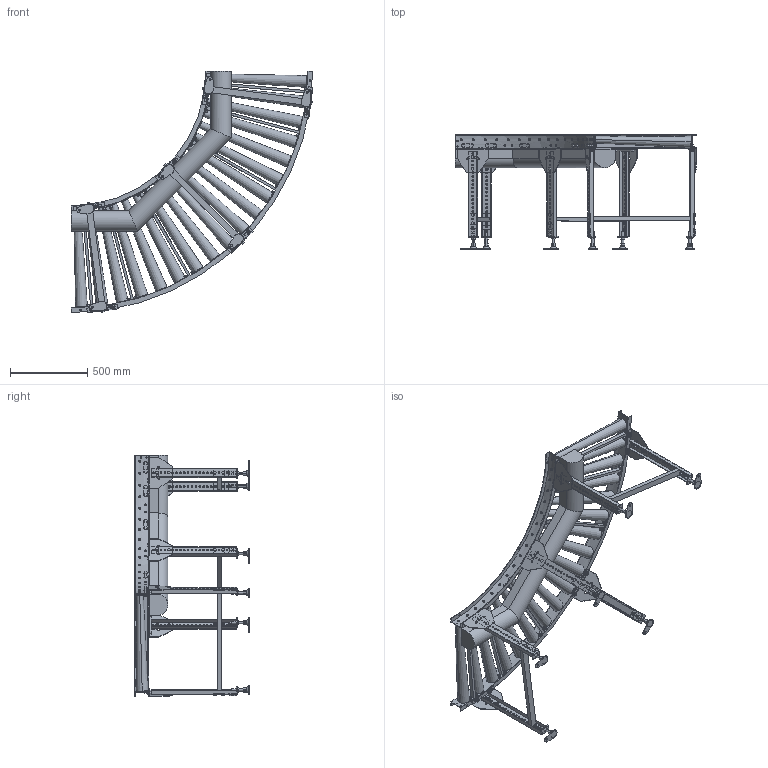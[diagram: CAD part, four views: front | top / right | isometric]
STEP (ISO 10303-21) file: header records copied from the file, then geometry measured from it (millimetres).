
FILE_DESCRIPTION (( 'STEP AP214' ), '1' );
FILE_NAME ('MCD50C9-90-630-100.STEP', '2022-08-01T07:45:13', ( '' ), ( '' ), 'SwSTEP 2.0', 'SolidWorks 2017', '' );
FILE_SCHEMA (( 'AUTOMOTIVE_DESIGN' ));
Length unit declared in the file: millimetre
Products named in the file (1): MCD50C9-90-630-100
Bounding box: 1561.07 x 740 x 1561.07 mm (x, y, z)
Volume: 63293627 mm3; surface area: 5997277 mm2
Topology: 28 solids, 58 shells, 3790 faces, 9128 edges, 5760 vertices
Faces by surface type: plane 2715, cylinder 1027, cone 48
Entity records: 161503 total; most frequent: CARTESIAN_POINT 29135, DIRECTION 19110, ORIENTED_EDGE 18256, EDGE_CURVE 9128, AXIS2_PLACEMENT_3D 6641, VECTOR 5828, LINE 5828, VERTEX_POINT 5760
